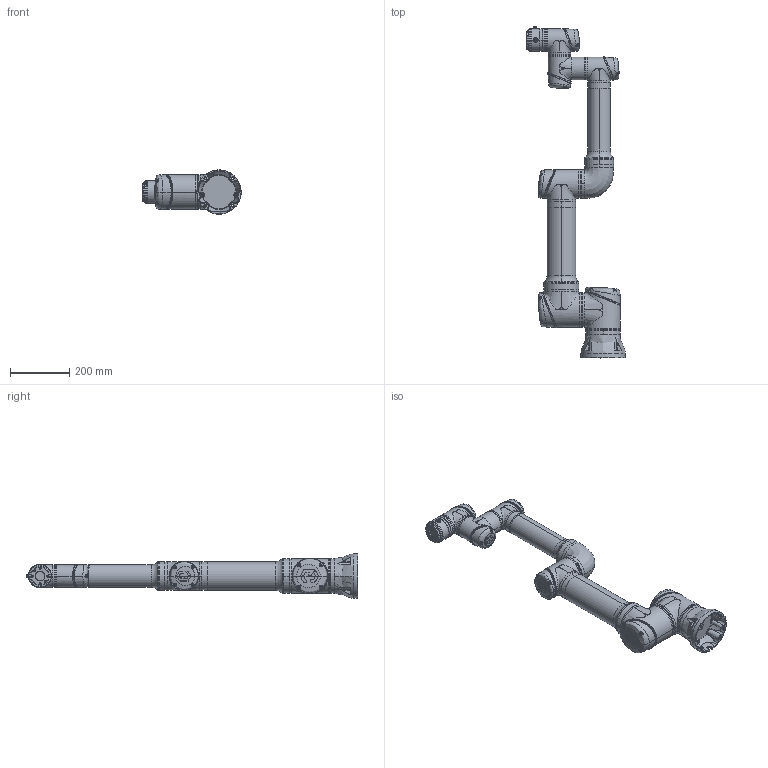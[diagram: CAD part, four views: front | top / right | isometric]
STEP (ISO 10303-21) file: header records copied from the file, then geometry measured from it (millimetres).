
FILE_DESCRIPTION (( 'STEP AP203' ), '1' );
FILE_NAME ('CS_掛极CS66F_V1.1.STEP', '2025-03-27T07:12:28', ( '' ), ( '' ), 'SwSTEP 2.0', 'SolidWorks 2017', '' );
FILE_SCHEMA (( 'CONFIG_CONTROL_DESIGN' ));
Products named in the file (8): CS66F-J5; CS66F_藺傷; CS66F-J6; CS66F-Base; CS_掛极CS66F_V1.1; CS66F-Link2A_Link2B_J4; CS66F-J1; CS66F-J2_Link1_J3
Assembly tree (7 placements, depth 2):
  CS_掛极CS66F_V1.1
    CS66F-Base
    CS66F_藺傷
    CS66F-J1
    CS66F-J2_Link1_J3
    CS66F-J5
    CS66F-J6
    CS66F-Link2A_Link2B_J4
Bounding box: 332.85 x 1124 x 149.7 mm (x, y, z)
Volume: 11969323.3 mm3; surface area: 938054.8 mm2
Topology: 78 solids, 83 shells, 4898 faces, 11748 edges, 7028 vertices
Faces by surface type: bspline 2354, plane 1133, cylinder 794, cone 346, sphere 153, torus 118
Entity records: 680061 total; most frequent: CARTESIAN_POINT 585034, ORIENTED_EDGE 23034, DIRECTION 14781, EDGE_CURVE 11517, VERTEX_POINT 7016, AXIS2_PLACEMENT_3D 6248, EDGE_LOOP 5209, B_SPLINE_CURVE_WITH_KNOTS 4968
